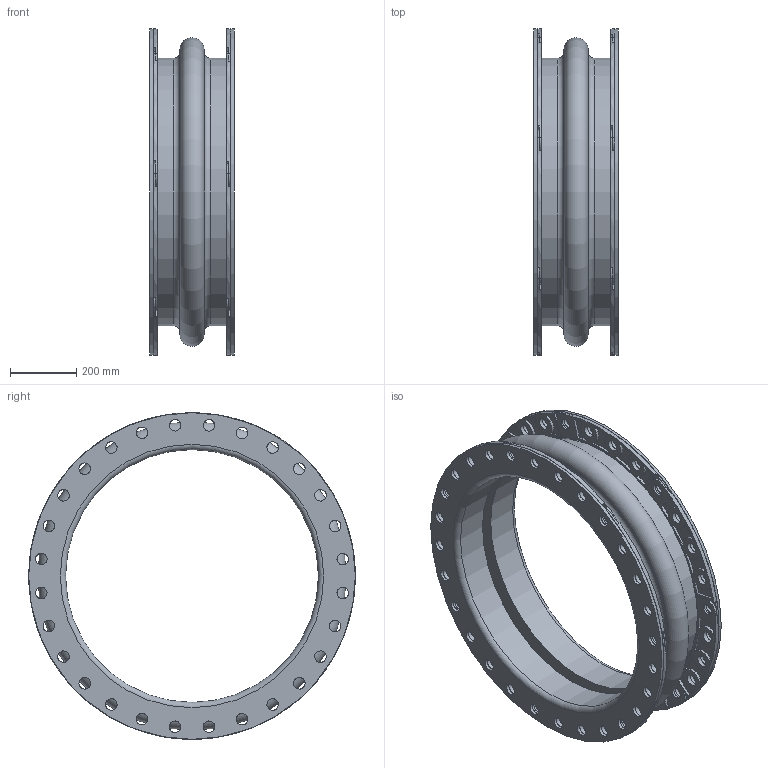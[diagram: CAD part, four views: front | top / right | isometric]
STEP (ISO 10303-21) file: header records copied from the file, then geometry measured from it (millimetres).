
FILE_DESCRIPTION(/* description */ (''),/* implementation_level */ '2;1');
FILE_NAME(/* name */ 'C:\001_Work\Designs\Mercer2014\MQInventor2014\RajR\500 Style\501\New folder\501 30IDx10FF.stp',/* time_stamp */ '2016-03-26T14:21:44-04:00',/* author */ ('rramoutar'),/* organization */ ('Mason Industries Inc.'),/* preprocessor_version */ 'ST-DEVELOPER v15.6',/* originating_system */ 'Autodesk Inventor 2015',/* authorisation */ '');
FILE_SCHEMA (('CONFIG_CONTROL_DESIGN'));
Length unit declared in the file: inch
Products named in the file (1): 501 30IDx10FF
Bounding box: 254 x 984.29 x 984.29 mm (x, y, z)
Volume: 27966509.8 mm3; surface area: 3964877.8 mm2
Topology: 3 solids, 3 shells, 1066 faces, 2947 edges, 1941 vertices
Faces by surface type: cylinder 714, plane 312, torus 36, cone 4
Full cylindrical faces by diameter (mm): 34.925 x56, 34.99 x70, 762 x2, 806.45 x2, 822.325 x1, 984.25 x2
Entity records: 36234 total; most frequent: CARTESIAN_POINT 6802, DIRECTION 6420, ORIENTED_EDGE 5546, EDGE_CURVE 2773, AXIS2_PLACEMENT_3D 2650, VERTEX_POINT 1912, CIRCLE 1583, EDGE_LOOP 1495
